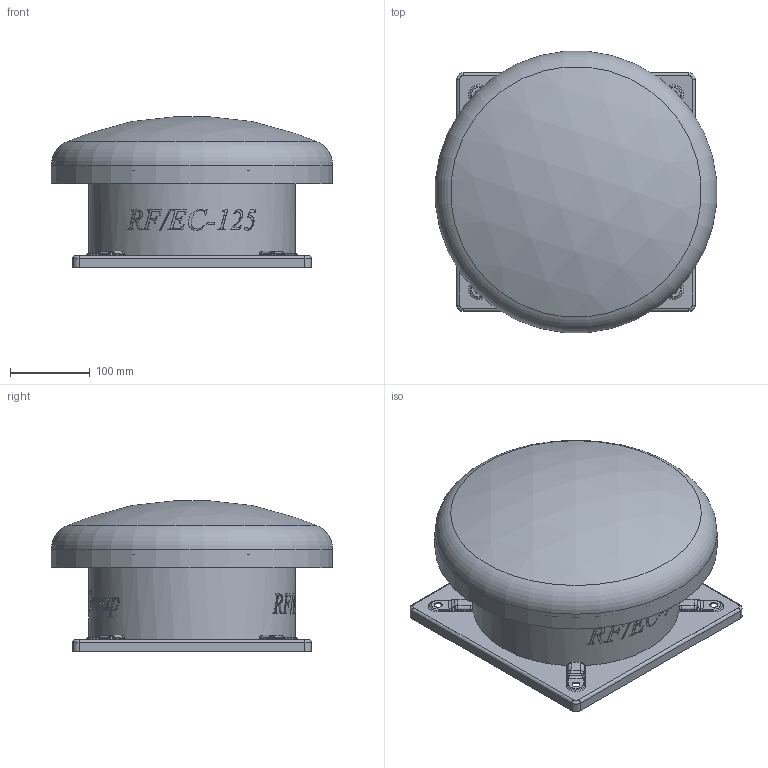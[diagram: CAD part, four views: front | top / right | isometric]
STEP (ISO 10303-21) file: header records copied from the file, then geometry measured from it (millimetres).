
FILE_DESCRIPTION(/* description */ (''),/* implementation_level */ '2;1');
FILE_NAME(/* name */ 'E:\Mariusz\Modele uproszczone\RF-EC\RF_EC_125 43522910\RF_EC_125 43522910\RF_EC_125 43522910.stp',/* time_stamp */ '2018-06-06T11:38:34+02:00',/* author */ ('M.Janczarek'),/* organization */ (''),/* preprocessor_version */ 'ST-DEVELOPER v16.5',/* originating_system */ 'Autodesk Inventor 2017',/* authorisation */ '');
FILE_SCHEMA (('AUTOMOTIVE_DESIGN { 1 0 10303 214 3 1 1 }'));
Length unit declared in the file: millimetre
Products named in the file (1): RF_EC_125 43522910
Bounding box: 353.66 x 353.66 x 189.77 mm (x, y, z)
Volume: 10494101 mm3; surface area: 462270.6 mm2
Topology: 1 solids, 1 shells, 724 faces, 1913 edges, 1226 vertices
Faces by surface type: bspline 446, plane 112, cylinder 108, torus 44, cone 13, sphere 1
Full cylindrical faces by diameter (mm): 10 x5, 17.5 x1, 260 x1, 352 x1, 355 x1
Entity records: 31699 total; most frequent: CARTESIAN_POINT 15924, ORIENTED_EDGE 3788, DIRECTION 2213, EDGE_CURVE 1894, VERTEX_POINT 1219, AXIS2_PLACEMENT_3D 815, EDGE_LOOP 779, B_SPLINE_CURVE_WITH_KNOTS 775
